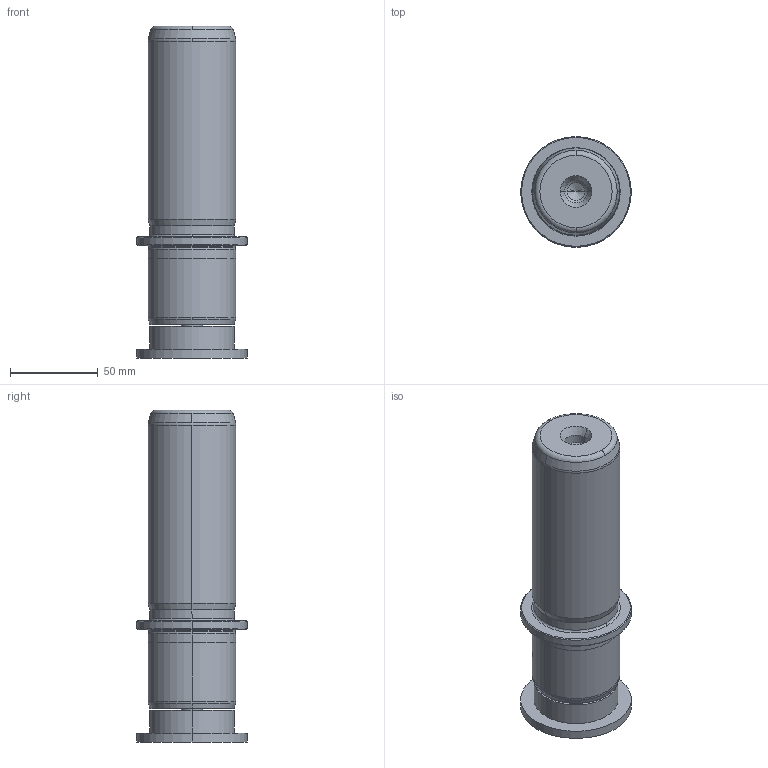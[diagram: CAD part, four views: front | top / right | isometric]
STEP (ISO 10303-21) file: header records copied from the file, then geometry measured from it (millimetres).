
FILE_DESCRIPTION((''),'2;1');
FILE_NAME('P22_050_125.stp','2009-11-02T10:46:03',(''),(''),'Mechanical Desktop 2009','Mechanical Desktop 2009',', , ');
FILE_SCHEMA(('CONFIG_CONTROL_DESIGN'));
Length unit declared in the file: millimetre
Products named in the file (2): Product; blmdl1
Assembly tree (1 placements, depth 2):
  Product
    blmdl1
Bounding box: 63 x 63 x 189 mm (x, y, z)
Volume: 369200.5 mm3; surface area: 47351.5 mm2
Topology: 3 solids, 3 shells, 99 faces, 237 edges, 149 vertices
Faces by surface type: cylinder 32, cone 28, plane 19, torus 10, bspline 10
Entity records: 3419 total; most frequent: CARTESIAN_POINT 923, DIRECTION 570, ORIENTED_EDGE 466, AXIS2_PLACEMENT_3D 246, EDGE_CURVE 233, CIRCLE 155, VERTEX_POINT 149, EDGE_LOOP 110
